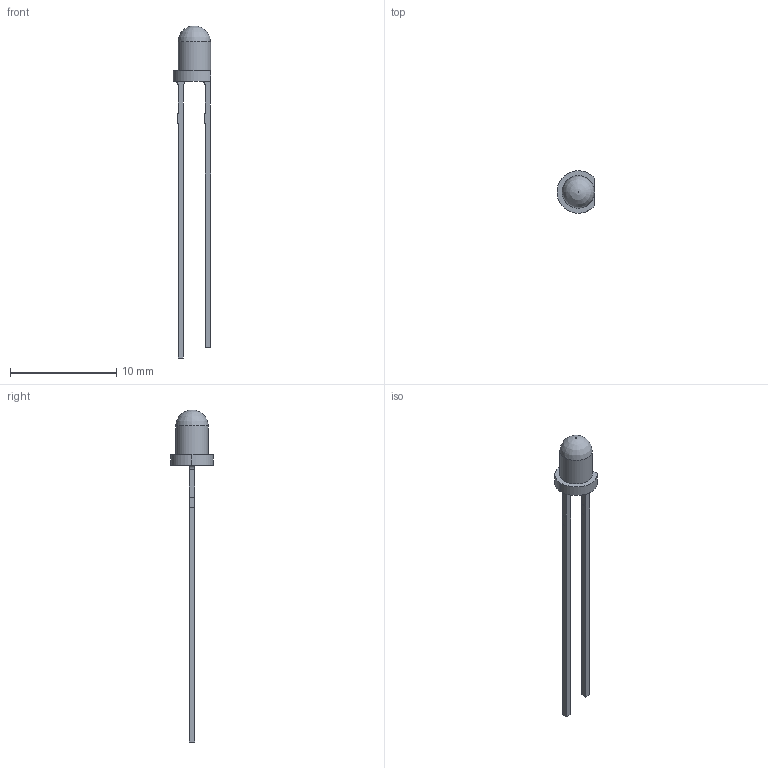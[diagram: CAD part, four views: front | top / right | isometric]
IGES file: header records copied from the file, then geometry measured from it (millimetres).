
Start section: Data from Parasolid IGES Translator 25.1.153, Copyright(c) 2006 Siemens PLM Software. All Rights Reserved.
Global section: file name: 630fd9001a0b465e5bf56f77.iges; native system: By Siemens PLM Incorporated; preprocessor: XPlus GENERIC/IGES 25.1.153; author: Noname; organization: Noname; date: 20220831.215616; units: metre
Bounding box: 3.57 x 4 x 31.2 mm (x, y, z)
Surface area: 174 mm2 (no closed solid volume)
Topology: 0 solids, 0 shells, 96 faces, 500 edges, 496 vertices
Faces by surface type: extrusion 89, revolution 7
